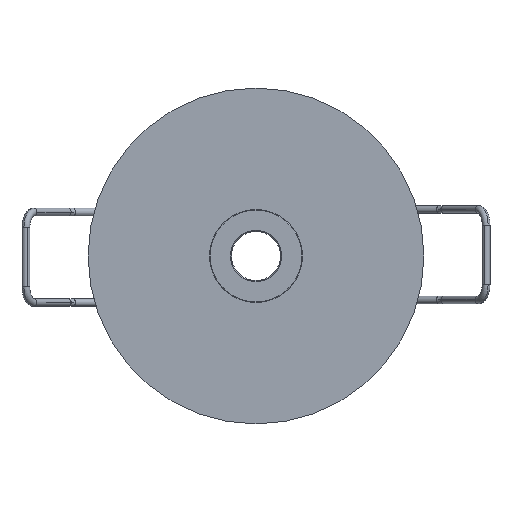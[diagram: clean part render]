
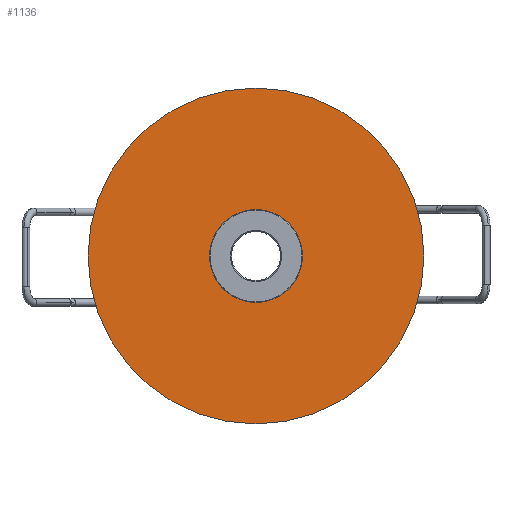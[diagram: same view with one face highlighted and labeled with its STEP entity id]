
A CAD part, front view. The second image highlights one B-rep face of the part: STEP entity #1136.
In plain terms, the highlighted planar face has unit normal (0, -1, 0).
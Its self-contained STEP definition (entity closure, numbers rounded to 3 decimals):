
#48 = FACE_BOUND ( 'NONE', #4327, .T. ) ;
#57 = EDGE_CURVE ( 'NONE', #2068, #572, #8061, .T. ) ;
#282 = CARTESIAN_POINT ( 'NONE',  ( 0., -1.5, 0. ) ) ;
#515 = DIRECTION ( 'NONE',  ( 0., 0., 1. ) ) ;
#572 = VERTEX_POINT ( 'NONE', #8684 ) ;
#904 = DIRECTION ( 'NONE',  ( 0., 1., 0. ) ) ;
#1007 = AXIS2_PLACEMENT_3D ( 'NONE', #1061, #904, #5899 ) ;
#1061 = CARTESIAN_POINT ( 'NONE',  ( 0., -1.5, 0. ) ) ;
#1136 = ADVANCED_FACE ( 'NONE', ( #48, #6652 ), #3316, .F. ) ;
#1272 = ORIENTED_EDGE ( 'NONE', *, *, #3166, .T. ) ;
#1321 = DIRECTION ( 'NONE',  ( 0., 1., 0. ) ) ;
#1563 = AXIS2_PLACEMENT_3D ( 'NONE', #282, #6944, #6132 ) ;
#1789 = CARTESIAN_POINT ( 'NONE',  ( 0., -1.5, -32.5 ) ) ;
#1847 = VERTEX_POINT ( 'NONE', #3181 ) ;
#2068 = VERTEX_POINT ( 'NONE', #1789 ) ;
#2879 = CARTESIAN_POINT ( 'NONE',  ( 0., -1.5, 0. ) ) ;
#3166 = EDGE_CURVE ( 'NONE', #5819, #1847, #10460, .T. ) ;
#3181 = CARTESIAN_POINT ( 'NONE',  ( 0., -1.5, 6.75 ) ) ;
#3316 = PLANE ( 'NONE',  #1007 ) ;
#3404 = AXIS2_PLACEMENT_3D ( 'NONE', #6860, #10136, #4436 ) ;
#3797 = CIRCLE ( 'NONE', #1563, 32.5 ) ;
#3843 = EDGE_CURVE ( 'NONE', #572, #2068, #3797, .T. ) ;
#3857 = DIRECTION ( 'NONE',  ( 0., 1., 0. ) ) ;
#4327 = EDGE_LOOP ( 'NONE', ( #6422, #1272 ) ) ;
#4436 = DIRECTION ( 'NONE',  ( 0., 0., 1. ) ) ;
#5819 = VERTEX_POINT ( 'NONE', #6718 ) ;
#5899 = DIRECTION ( 'NONE',  ( 0., 0., 1. ) ) ;
#6132 = DIRECTION ( 'NONE',  ( 0., 0., 1. ) ) ;
#6144 = CARTESIAN_POINT ( 'NONE',  ( 0., -1.5, 0. ) ) ;
#6319 = AXIS2_PLACEMENT_3D ( 'NONE', #6144, #1321, #515 ) ;
#6321 = DIRECTION ( 'NONE',  ( 0., 0., 1. ) ) ;
#6422 = ORIENTED_EDGE ( 'NONE', *, *, #10361, .T. ) ;
#6652 = FACE_OUTER_BOUND ( 'NONE', #8137, .T. ) ;
#6718 = CARTESIAN_POINT ( 'NONE',  ( 0., -1.5, -6.75 ) ) ;
#6860 = CARTESIAN_POINT ( 'NONE',  ( 0., -1.5, 0. ) ) ;
#6944 = DIRECTION ( 'NONE',  ( 0., 1., 0. ) ) ;
#7153 = CIRCLE ( 'NONE', #8526, 6.75 ) ;
#8061 = CIRCLE ( 'NONE', #3404, 32.5 ) ;
#8137 = EDGE_LOOP ( 'NONE', ( #10632, #9705 ) ) ;
#8526 = AXIS2_PLACEMENT_3D ( 'NONE', #2879, #3857, #6321 ) ;
#8684 = CARTESIAN_POINT ( 'NONE',  ( 0., -1.5, 32.5 ) ) ;
#9705 = ORIENTED_EDGE ( 'NONE', *, *, #57, .F. ) ;
#10136 = DIRECTION ( 'NONE',  ( 0., 1., 0. ) ) ;
#10361 = EDGE_CURVE ( 'NONE', #1847, #5819, #7153, .T. ) ;
#10460 = CIRCLE ( 'NONE', #6319, 6.75 ) ;
#10632 = ORIENTED_EDGE ( 'NONE', *, *, #3843, .F. ) ;
